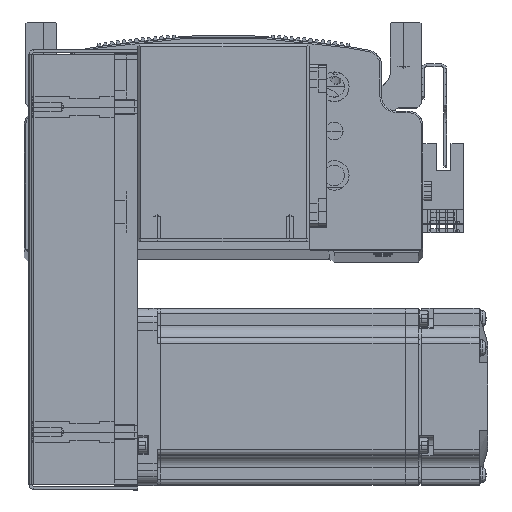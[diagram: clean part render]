
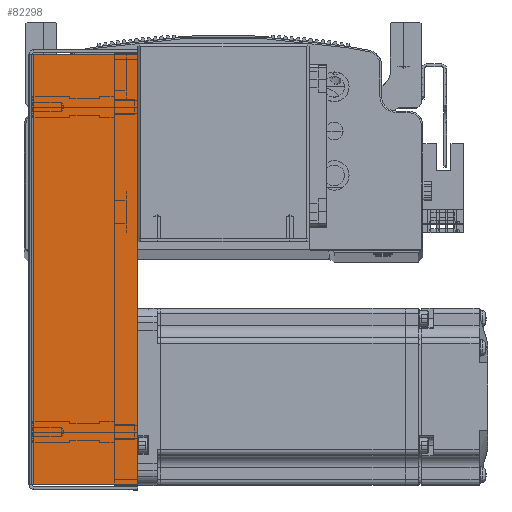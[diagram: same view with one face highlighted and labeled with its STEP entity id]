
A CAD part, top view. The second image highlights one B-rep face of the part: STEP entity #82298.
In plain terms, the highlighted planar face has unit normal (0, 0, 1) as drawn and (0, 0, -1) by its records, which use the part's own axes.
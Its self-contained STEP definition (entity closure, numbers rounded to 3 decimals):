
#5660 = LINE ( 'NONE', #13792, #5729 ) ;
#5729 = VECTOR ( 'NONE', #13821, 1000. ) ;
#13792 = CARTESIAN_POINT ( 'NONE',  ( -72.793, 0., -34.5 ) ) ;
#13821 = DIRECTION ( 'NONE',  ( 0., 1., 0. ) ) ;
#14060 = CARTESIAN_POINT ( 'NONE',  ( 72.793, 0., -34.5 ) ) ;
#14101 = DIRECTION ( 'NONE',  ( 0., 1., 0. ) ) ;
#14160 = CARTESIAN_POINT ( 'NONE',  ( 74.5, 0.737, -34.5 ) ) ;
#14186 = DIRECTION ( 'NONE',  ( 1., 0., 0. ) ) ;
#14417 = CARTESIAN_POINT ( 'NONE',  ( 0., 36., -34.5 ) ) ;
#14438 = DIRECTION ( 'NONE',  ( 1., 0., 0. ) ) ;
#15447 = VERTEX_POINT ( 'NONE', #46351 ) ;
#15466 = VERTEX_POINT ( 'NONE', #46369 ) ;
#15501 = VERTEX_POINT ( 'NONE', #46526 ) ;
#15522 = VERTEX_POINT ( 'NONE', #46582 ) ;
#26964 = EDGE_CURVE ( 'NONE', #15447, #15501, #5660, .T. ) ;
#26988 = EDGE_CURVE ( 'NONE', #15466, #15522, #49161, .T. ) ;
#27011 = EDGE_CURVE ( 'NONE', #15447, #15466, #49132, .T. ) ;
#27041 = EDGE_CURVE ( 'NONE', #15501, #15522, #49297, .T. ) ;
#46351 = CARTESIAN_POINT ( 'NONE',  ( -72.793, 0.737, -34.5 ) ) ;
#46369 = CARTESIAN_POINT ( 'NONE',  ( 72.793, 0.737, -34.5 ) ) ;
#46526 = CARTESIAN_POINT ( 'NONE',  ( -72.793, 36., -34.5 ) ) ;
#46582 = CARTESIAN_POINT ( 'NONE',  ( 72.793, 36., -34.5 ) ) ;
#49086 = VECTOR ( 'NONE', #14186, 1000. ) ;
#49126 = VECTOR ( 'NONE', #14101, 1000. ) ;
#49132 = LINE ( 'NONE', #14160, #49086 ) ;
#49161 = LINE ( 'NONE', #14060, #49126 ) ;
#49266 = VECTOR ( 'NONE', #14438, 1000. ) ;
#49297 = LINE ( 'NONE', #14417, #49266 ) ;
#64436 = DIRECTION ( 'NONE',  ( 0., 0., 1. ) ) ;
#64452 = DIRECTION ( 'NONE',  ( 0., -1., 0. ) ) ;
#64512 = PLANE ( 'NONE',  #67283 ) ;
#64571 = CARTESIAN_POINT ( 'NONE',  ( 0., 0., -34.5 ) ) ;
#67283 = AXIS2_PLACEMENT_3D ( 'NONE', #64571, #64436, #64452 ) ;
#69715 = FACE_OUTER_BOUND ( 'NONE', #82364, .T. ) ;
#73260 = ORIENTED_EDGE ( 'NONE', *, *, #27041, .T. ) ;
#73279 = ORIENTED_EDGE ( 'NONE', *, *, #27011, .F. ) ;
#73282 = ORIENTED_EDGE ( 'NONE', *, *, #26964, .T. ) ;
#73287 = ORIENTED_EDGE ( 'NONE', *, *, #26988, .F. ) ;
#82298 = ADVANCED_FACE ( 'NONE', ( #69715 ), #64512, .F. ) ;
#82364 = EDGE_LOOP ( 'NONE', ( #73279, #73282, #73260, #73287 ) ) ;
